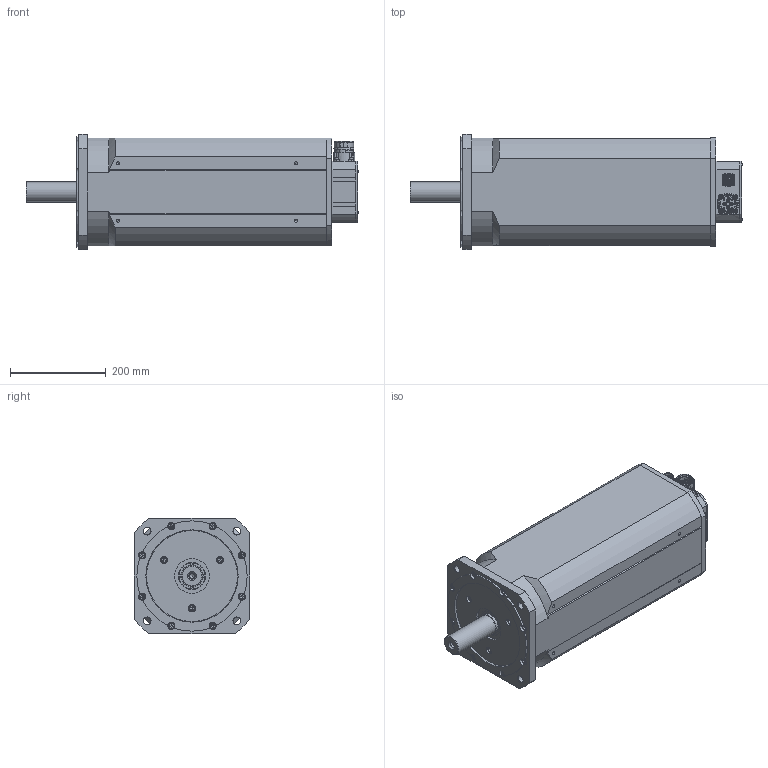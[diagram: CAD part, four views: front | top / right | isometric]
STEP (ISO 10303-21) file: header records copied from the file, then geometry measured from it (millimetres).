
FILE_DESCRIPTION(/* description */ (''),/* implementation_level */ '2;1');
FILE_NAME(/* name */ 'C:\PDF_output\T8000 00 B Z_1150_8P_12P.stp',/* time_stamp */ '2024-04-19T12:01:55+02:00',/* author */ ('oslejsek'),/* organization */ (''),/* preprocessor_version */ 'ST-DEVELOPER v18.1',/* originating_system */ 'Autodesk Inventor 2021',/* authorisation */ '');
FILE_SCHEMA (('AUTOMOTIVE_DESIGN { 1 0 10303 214 3 1 1 }'));
Products named in the file (5): T8000 00 B Z_1150_8P_12P; T8000 00 B Z_rear_1150; 127344; 115772; T8000 00 B Z_front_42_110
Assembly tree (4 placements, depth 2):
  T8000 00 B Z_1150_8P_12P
    T8000 00 B Z_rear_1150
    127344
    115772
    T8000 00 B Z_front_42_110
Bounding box: 692.29 x 240 x 240 mm (x, y, z)
Volume: 25439236.3 mm3; surface area: 803165.2 mm2
Topology: 5 solids, 62 shells, 2680 faces, 6867 edges, 4446 vertices
Faces by surface type: plane 964, cylinder 817, cone 306, bspline 297, torus 257, sphere 39
Full cylindrical faces by diameter (mm): 1 x12, 1.18 x12, 2 x4, 2.013 x4, 2.208 x4, 2.4 x4, 2.459 x6, 2.5 x4, 2.7 x4, 3 x3, 3.2 x3, 3.242 x11, 3.545 x4, 3.6 x5, 3.95 x4, 4 x15, 4.134 x2, 4.3 x8, 4.917 x9, 5 x4, 5.7 x3, 6 x9, 6.4 x1, 6.5 x8, 6.647 x16, 7 x4, 7.5 x4, 8 x15, 8.4 x11, 8.5 x4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
Entity records: 97725 total; most frequent: CARTESIAN_POINT 30439, ORIENTED_EDGE 13550, DIRECTION 13490, EDGE_CURVE 6775, AXIS2_PLACEMENT_3D 5452, VERTEX_POINT 4464, EDGE_LOOP 3069, CIRCLE 2823
